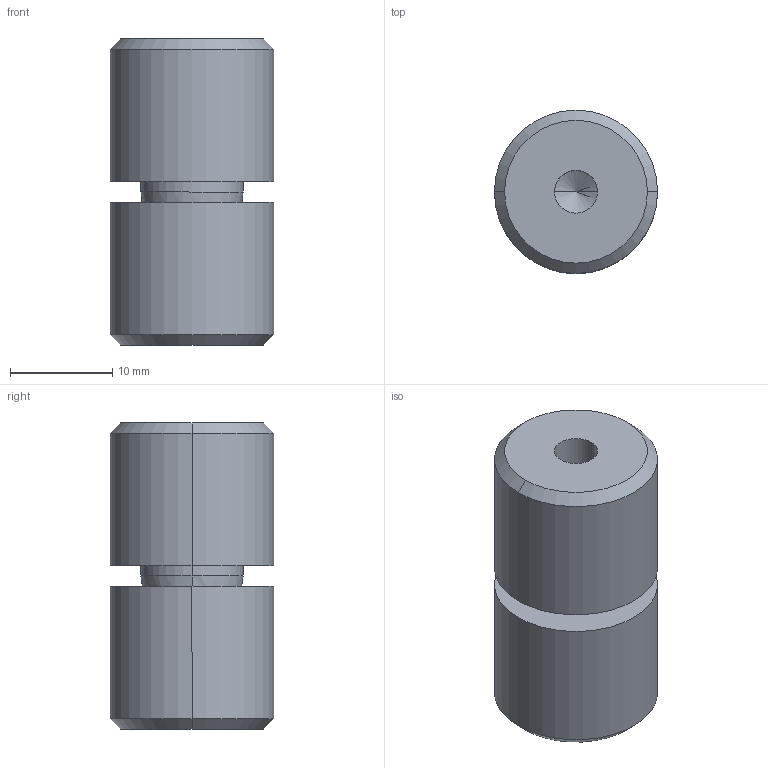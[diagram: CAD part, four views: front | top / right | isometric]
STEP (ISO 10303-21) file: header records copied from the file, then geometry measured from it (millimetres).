
FILE_DESCRIPTION (( 'STEP AP214' ), '1' );
FILE_NAME ('ZTPN16-5.STEP', '2024-06-04T14:45:27', ( '' ), ( '' ), 'SwSTEP 2.0', 'SolidWorks 2017', '' );
FILE_SCHEMA (( 'AUTOMOTIVE_DESIGN' ));
Length unit declared in the file: millimetre
Products named in the file (3): ZTPNP16-5; ZTPNB16-5; ZTPN16-5
Assembly tree (2 placements, depth 2):
  ZTPN16-5
    ZTPNP16-5
    ZTPNB16-5
Bounding box: 16 x 16 x 30 mm (x, y, z)
Volume: 5241 mm3; surface area: 2727.9 mm2
Topology: 2 solids, 2 shells, 32 faces, 64 edges, 37 vertices
Faces by surface type: cylinder 12, cone 12, plane 6, torus 2
Entity records: 978 total; most frequent: DIRECTION 174, CARTESIAN_POINT 136, ORIENTED_EDGE 124, AXIS2_PLACEMENT_3D 75, EDGE_CURVE 62, CIRCLE 38, VERTEX_POINT 37, EDGE_LOOP 37
